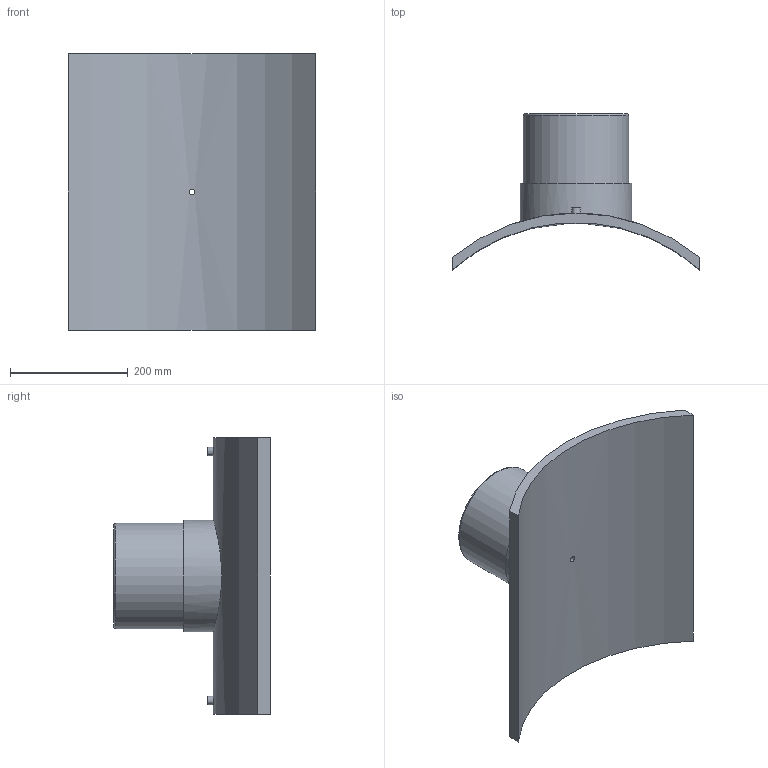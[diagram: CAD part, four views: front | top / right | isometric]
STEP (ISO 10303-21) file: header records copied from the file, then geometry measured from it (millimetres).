
FILE_DESCRIPTION(/* description */ ('PLASSON BRANCH SADDLE 630x180'),/* implementation_level */ '2;1');
FILE_NAME(/* name */ 'C:\Dropbox\KIMPROJECTS-Inventor 2019\99-16-3568-Processing\ElectroFusion Fittings\495803\stp\495803630180T.stp',/* time_stamp */ '2024-04-04T11:53:17+02:00',/* author */ ('KIM'),/* organization */ (''),/* preprocessor_version */ 'ST-DEVELOPER v17.2',/* originating_system */ 'Autodesk Inventor 2019',/* authorisation */ '');
FILE_SCHEMA (('AUTOMOTIVE_DESIGN { 1 0 10303 214 3 1 1 }'));
Length unit declared in the file: millimetre
Products named in the file (1): 495803630180T
Bounding box: 420 x 265.21 x 470 mm (x, y, z)
Volume: 5191611.5 mm3; surface area: 651204.1 mm2
Topology: 1 solids, 1 shells, 29 faces, 60 edges, 43 vertices
Faces by surface type: plane 13, cylinder 12, torus 2, cone 2
Full cylindrical faces by diameter (mm): 4 x2, 9.6 x1, 10 x2, 16 x1, 144 x1, 180 x1, 189 x1
Entity records: 1086 total; most frequent: CARTESIAN_POINT 400, DIRECTION 139, ORIENTED_EDGE 120, EDGE_CURVE 60, AXIS2_PLACEMENT_3D 60, VERTEX_POINT 43, EDGE_LOOP 41, CIRCLE 30
